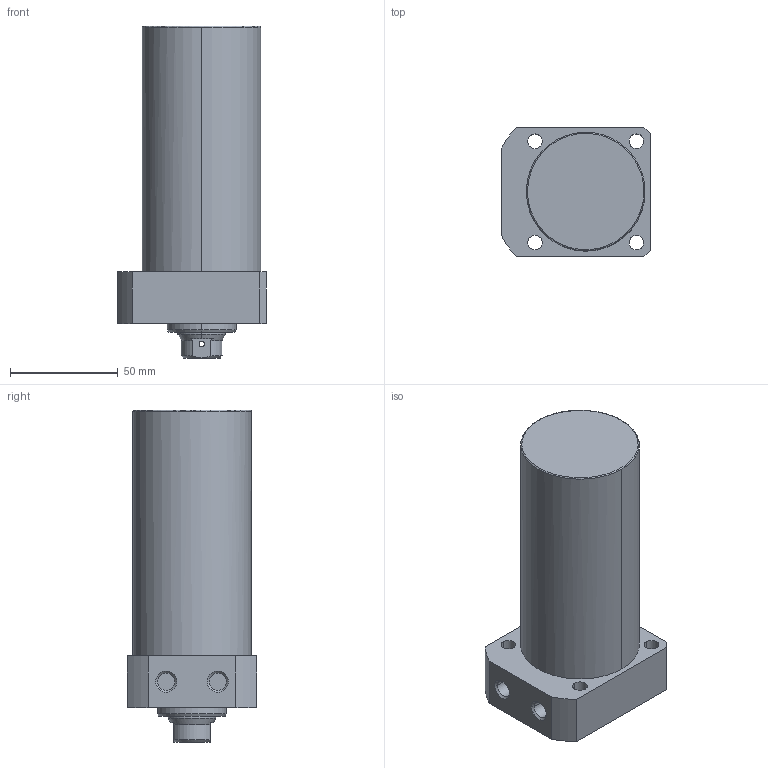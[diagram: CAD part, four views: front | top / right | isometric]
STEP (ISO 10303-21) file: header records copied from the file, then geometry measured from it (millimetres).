
FILE_DESCRIPTION((' '),'2;1');
FILE_NAME( 'TLLR-055CB-085.STEP.stp', '2025-10-24T16:34:44', (' '), ('--- Datakit www.datakit.com---'), ' Datakit CrossCadWare V2024.1 Dec 21 2023', 'Mastercam 2025', ' ');
FILE_SCHEMA(('AUTOMOTIVE_DESIGN { 1 0 10303 214 1 1 1 1 }'));
Length unit declared in the file: millimetre
Products named in the file (1): TLLR-055CB-085
Bounding box: 69 x 60 x 154 mm (x, y, z)
Volume: 368429.9 mm3; surface area: 38033.3 mm2
Topology: 1 solids, 1 shells, 67 faces, 197 edges, 136 vertices
Faces by surface type: cylinder 32, plane 19, cone 14, torus 2
Entity records: 3058 total; most frequent: CARTESIAN_POINT 1139, DIRECTION 426, ORIENTED_EDGE 390, EDGE_CURVE 195, AXIS2_PLACEMENT_3D 179, VERTEX_POINT 136, CIRCLE 111, EDGE_LOOP 85
